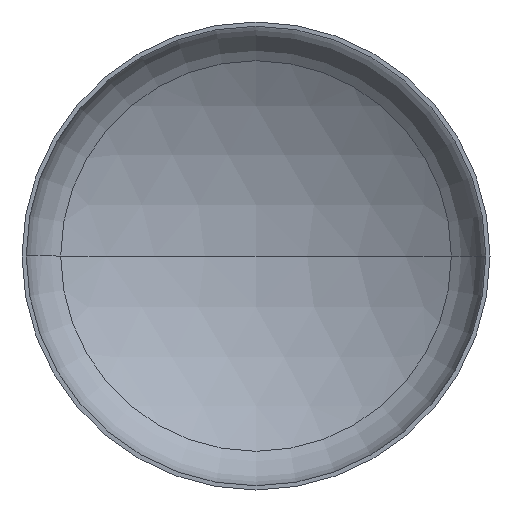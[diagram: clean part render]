
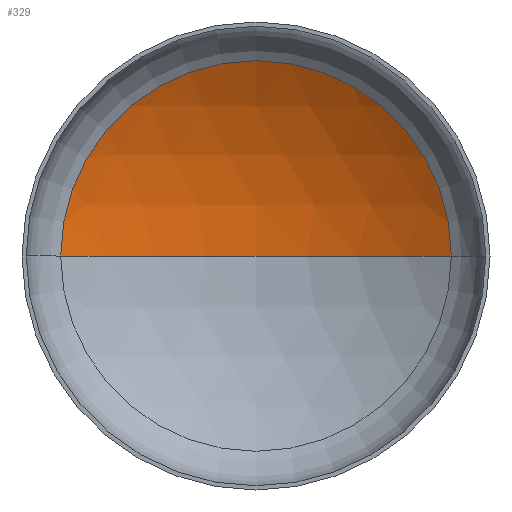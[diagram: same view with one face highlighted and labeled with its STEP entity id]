
A CAD part, front view. The second image highlights one B-rep face of the part: STEP entity #329.
In plain terms, the highlighted spherical face has radius 4000 mm.
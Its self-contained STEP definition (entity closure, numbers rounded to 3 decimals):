
#3 = CIRCLE ( 'NONE', #131, 2086.687 ) ;
#7 = ORIENTED_EDGE ( 'NONE', *, *, #216, .T. ) ;
#20 = VERTEX_POINT ( 'NONE', #287 ) ;
#21 = EDGE_LOOP ( 'NONE', ( #38, #7, #327 ) ) ;
#38 = ORIENTED_EDGE ( 'NONE', *, *, #218, .F. ) ;
#40 = AXIS2_PLACEMENT_3D ( 'NONE', #100, #145, #146 ) ;
#41 = VERTEX_POINT ( 'NONE', #258 ) ;
#99 = VERTEX_POINT ( 'NONE', #336 ) ;
#100 = CARTESIAN_POINT ( 'NONE',  ( 0., -2615.662, 0. ) ) ;
#109 = AXIS2_PLACEMENT_3D ( 'NONE', #279, #401, #275 ) ;
#118 = AXIS2_PLACEMENT_3D ( 'NONE', #215, #217, #270 ) ;
#129 = SPHERICAL_SURFACE ( 'NONE', #40, 4000. ) ;
#131 = AXIS2_PLACEMENT_3D ( 'NONE', #189, #177, #192 ) ;
#145 = DIRECTION ( 'NONE',  ( 0., 0., -1. ) ) ;
#146 = DIRECTION ( 'NONE',  ( -1., 0., 0. ) ) ;
#162 = CIRCLE ( 'NONE', #118, 4000. ) ;
#177 = DIRECTION ( 'NONE',  ( 0., -1., 0. ) ) ;
#189 = CARTESIAN_POINT ( 'NONE',  ( 0., 796.923, 0. ) ) ;
#192 = DIRECTION ( 'NONE',  ( 1., 0., 0. ) ) ;
#213 = EDGE_CURVE ( 'NONE', #20, #41, #3, .T. ) ;
#215 = CARTESIAN_POINT ( 'NONE',  ( 0., -2615.662, 0. ) ) ;
#216 = EDGE_CURVE ( 'NONE', #99, #20, #162, .T. ) ;
#217 = DIRECTION ( 'NONE',  ( 0., 0., -1. ) ) ;
#218 = EDGE_CURVE ( 'NONE', #99, #41, #239, .T. ) ;
#220 = FACE_OUTER_BOUND ( 'NONE', #21, .T. ) ;
#239 = CIRCLE ( 'NONE', #109, 4000. ) ;
#258 = CARTESIAN_POINT ( 'NONE',  ( -2086.687, 796.923, 0. ) ) ;
#270 = DIRECTION ( 'NONE',  ( -1., 0., 0. ) ) ;
#275 = DIRECTION ( 'NONE',  ( 1., 0., 0. ) ) ;
#279 = CARTESIAN_POINT ( 'NONE',  ( 0., -2615.662, 0. ) ) ;
#287 = CARTESIAN_POINT ( 'NONE',  ( 2086.687, 796.923, 0. ) ) ;
#327 = ORIENTED_EDGE ( 'NONE', *, *, #213, .T. ) ;
#329 = ADVANCED_FACE ( 'NONE', ( #220 ), #129, .F. ) ;
#336 = CARTESIAN_POINT ( 'NONE',  ( 0., 1384.338, 0. ) ) ;
#401 = DIRECTION ( 'NONE',  ( 0., 0., 1. ) ) ;
